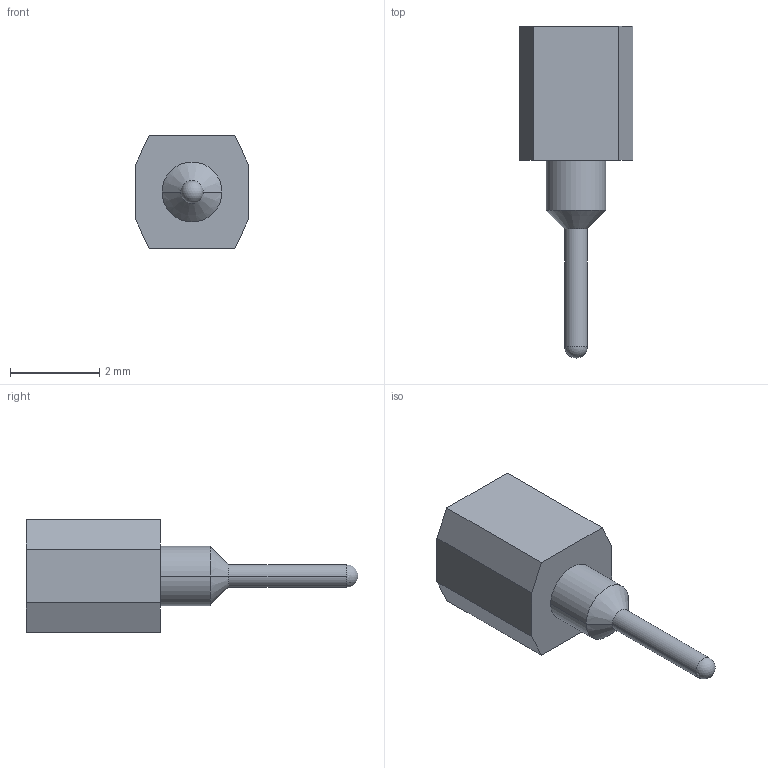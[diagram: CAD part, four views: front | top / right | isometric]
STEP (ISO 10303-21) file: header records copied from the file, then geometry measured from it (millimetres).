
FILE_DESCRIPTION(('STEP AP214'),'1');
FILE_NAME(' ',' ',('TraceParts'),('TraceParts S.A.'),'XStep 1.0',' ',' ');
FILE_SCHEMA(('automotive_design'));
Length unit declared in the file: millimetre
Products named in the file (1): 1
Bounding box: 2.54 x 7.43 x 2.54 mm (x, y, z)
Volume: 17.7 mm3; surface area: 59.4 mm2
Topology: 1 solids, 1 shells, 24 faces, 60 edges, 38 vertices
Faces by surface type: plane 11, cylinder 6, torus 4, cone 2, sphere 1
Entity records: 1400 total; most frequent: DIRECTION 134, CARTESIAN_POINT 121, STYLED_ITEM 120, PRESENTATION_STYLE_ASSIGNMENT 120, COLOUR_RGB 120, ORIENTED_EDGE 116, EDGE_CURVE 58, CURVE_STYLE 58
